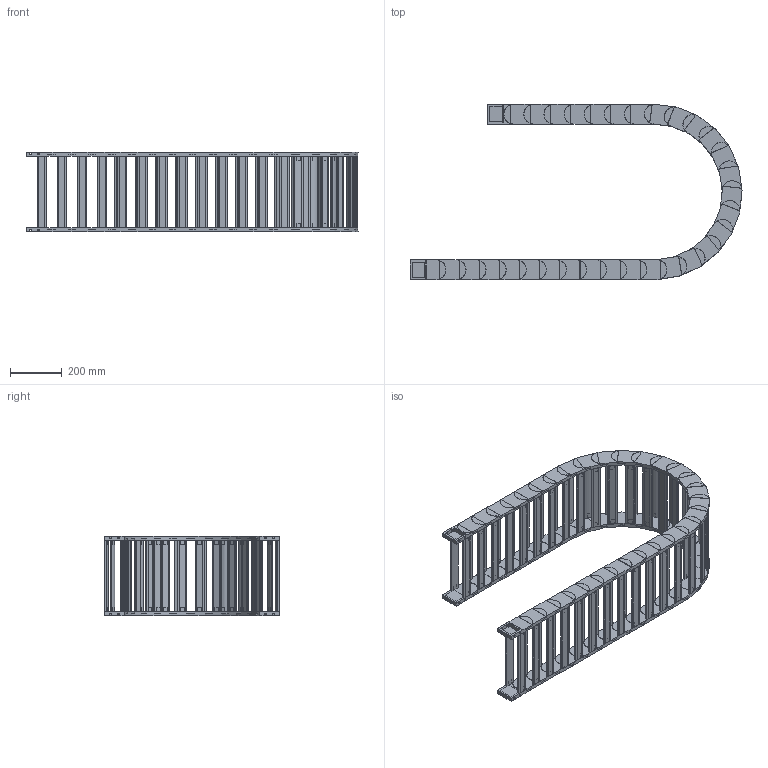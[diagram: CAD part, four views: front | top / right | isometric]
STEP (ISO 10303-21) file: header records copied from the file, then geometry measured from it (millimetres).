
FILE_DESCRIPTION((''),'2;1');
FILE_NAME('HD55-R300-ZPT_ASM','2022-06-17T19:07:56',('admin'),(''),'CREO PARAMETRIC BY PTC INC, 2021164','CREO PARAMETRIC BY PTC INC, 2021164','');
FILE_SCHEMA(('CONFIG_CONTROL_DESIGN','GEOMETRIC_VALIDATION_PROPERTIES_MIM'));
Length unit declared in the file: millimetre
Products named in the file (6): HD-55; 55-500001; HD55_ASM; H55-T1; H55-T2; HD55-R300-ZPT_ASM
Assembly tree (36 placements, depth 3):
  HD55-R300-ZPT_ASM
    HD55_ASM  x30
      HD-55
      55-500001
    H55-T1
    H55-T2
    55-500001  x2
Bounding box: 1280.44 x 675.83 x 307.7 mm (x, y, z)
Volume: 10899602 mm3; surface area: 3288516.7 mm2
Topology: 128 solids, 128 shells, 2110 faces, 5414 edges, 3692 vertices
Faces by surface type: plane 1748, cylinder 362
Entity records: 8855 total; most frequent: CARTESIAN_POINT 1308, DIRECTION 1270, ORIENTED_EDGE 1172, EDGE_CURVE 586, AXIS2_PLACEMENT_3D 426, VECTOR 418, LINE 418, VERTEX_POINT 396
